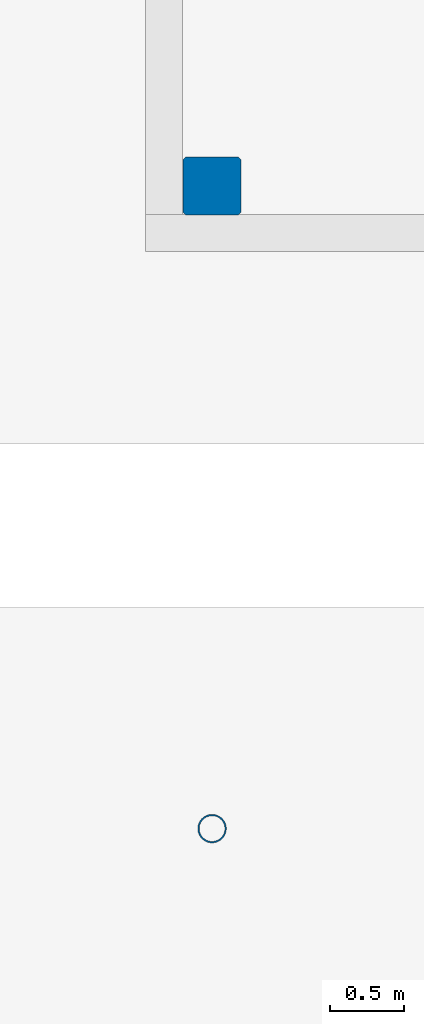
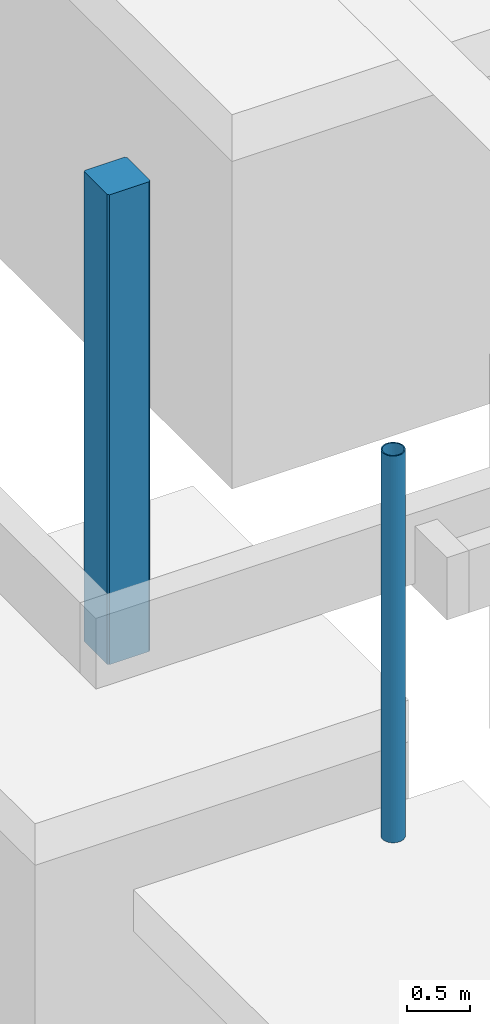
# One storey, part 2 of 12: 2 columns.
"""IFC4X3_ADD2 building model written with IfcOpenShell, lengths in millimetres."""

import ifcopenshell
import ifcopenshell.guid

model = None  # the IFC model being written
_history = None  # IfcOwnerHistory: only IFC2X3 demands one
_inside = {}  # id of a spatial element -> (the spatial element, [elements in it])
_under = {}  # id of a project, library or spatial element -> (it, [spatial elements below it])
_declared = {}  # id of a project -> (the project, [libraries it declares])
_typed = {}  # id of a type object -> (the type object, [elements of that type])
_made_of = {}  # id of a material, layer set ... -> (it, [elements and type objects made of it])


def new_model(schema):
    """Start an empty IFC model of exactly this schema.

    Asked for "IFC4X3", IfcOpenShell would pick the latest addendum, in which some entities
    have other attributes; the version numbers below select the first issue.
    IFC2X3 requires an IfcOwnerHistory on every rooted entity: one is made here for all.
    """
    global model, _history
    if schema == "IFC4X3":
        model = ifcopenshell.file(schema_version=(4, 3, 0, 0))
    else:
        model = ifcopenshell.file(schema=schema)
    _inside.clear()
    _under.clear()
    _declared.clear()
    _typed.clear()
    _made_of.clear()
    _history = None
    if model.schema == "IFC2X3":
        org = make("IfcOrganization", Name="unknown")
        user = make(
            "IfcPersonAndOrganization",
            ThePerson=make("IfcPerson", FamilyName="unknown"),
            TheOrganization=org,
        )
        app = make(
            "IfcApplication",
            ApplicationDeveloper=org,
            Version="unknown",
            ApplicationFullName="unknown",
            ApplicationIdentifier="unknown",
        )
        _history = make(
            "IfcOwnerHistory",
            OwningUser=user,
            OwningApplication=app,
            ChangeAction="ADDED",
            CreationDate=0,
        )
    return model


def make(cls, **values):
    """One entity of the class cls with the attributes given. An attribute that is None is left unset."""
    return model.create_entity(
        cls, **{name: value for name, value in values.items() if value is not None}
    )


def rooted(cls, **values):
    """An entity with a GlobalId (a new one), such as an element, a storey or a relation."""
    return make(cls, GlobalId=ifcopenshell.guid.new(), OwnerHistory=_history, **values)


def si_unit(unit_type, name, prefix=None):
    """IfcSIUnit, for example si_unit("LENGTHUNIT", "METRE", prefix="MILLI")."""
    return make("IfcSIUnit", UnitType=unit_type, Prefix=prefix, Name=name)


def assignment(units):
    """IfcUnitAssignment: the units of a project."""
    return None if units is None else make("IfcUnitAssignment", Units=units)


def point(xyz):
    """IfcCartesianPoint."""
    return None if xyz is None else make("IfcCartesianPoint", Coordinates=xyz)


def direction(xyz):
    """IfcDirection."""
    return None if xyz is None else make("IfcDirection", DirectionRatios=xyz)


def frame(location, z_axis=None, x_axis=None):
    """IfcAxis2Placement3D, a coordinate frame: its origin and axes. An axis left out is left unset."""
    return make(
        "IfcAxis2Placement3D",
        Location=point(location),
        Axis=direction(z_axis),
        RefDirection=direction(x_axis),
    )


def frame_2d(location, x_axis=None):
    """IfcAxis2Placement2D, a coordinate frame in the plane: its origin and x axis."""
    return make(
        "IfcAxis2Placement2D", Location=point(location), RefDirection=direction(x_axis)
    )


def origin_with_axes():
    """The frame at (0, 0, 0) with the z axis (0, 0, 1) and the x axis (1, 0, 0) written out."""
    return frame((0.0, 0.0, 0.0), z_axis=(0.0, 0.0, 1.0), x_axis=(1.0, 0.0, 0.0))


def place(relative_to, where):
    """IfcLocalPlacement: puts the frame where relative to a parent placement (None: the world)."""
    return make(
        "IfcLocalPlacement", PlacementRelTo=relative_to, RelativePlacement=where
    )


def context(
    kind, dimensions, precision=None, world=None, true_north=None, identifier=None
):
    """IfcGeometricRepresentationContext, for example the 3D "Model" context."""
    return make(
        "IfcGeometricRepresentationContext",
        ContextIdentifier=identifier,
        ContextType=kind,
        CoordinateSpaceDimension=dimensions,
        Precision=precision,
        WorldCoordinateSystem=world,
        TrueNorth=true_north,
    )


def subcontext(parent, identifier, kind, view, scale=None):
    """IfcGeometricRepresentationSubContext, for example "Body" below "Model"."""
    return make(
        "IfcGeometricRepresentationSubContext",
        ContextIdentifier=identifier,
        ContextType=kind,
        ParentContext=parent,
        TargetScale=scale,
        TargetView=view,
    )


def project(units=None, contexts=None):
    """IfcProject with its units and contexts."""
    return rooted(
        "IfcProject",
        Name="project",
        RepresentationContexts=contexts,
        UnitsInContext=assignment(units),
    )


def spatial(cls, under=None, at=None, **own):
    """A site, building, storey or space (cls), placed at a placement, below another one or the project."""
    s = rooted(cls, ObjectPlacement=at, **own)
    if under is not None:
        _under.setdefault(under.id(), (under, []))[1].append(s)
    return s


def polyline(points):
    """IfcPolyline through the points."""
    return make("IfcPolyline", Points=[point(p) for p in points])


def profile(cls, at=None, kind="AREA", **sizes):
    """A parametric profile (cls). Its sizes go by their IFC names, for example OverallWidth=200.0."""
    return make(cls, ProfileType=kind, Position=at, **sizes)


def hollow_circle(**sizes):
    """IfcCircleHollowProfileDef."""
    return profile("IfcCircleHollowProfileDef", **sizes)


def outline(outer, holes=None, kind="AREA"):
    """IfcArbitraryClosedProfileDef: a profile drawn as a closed curve; with holes, ...WithVoids."""
    if holes is None:
        return make("IfcArbitraryClosedProfileDef", ProfileType=kind, OuterCurve=outer)
    return make(
        "IfcArbitraryProfileDefWithVoids",
        ProfileType=kind,
        OuterCurve=outer,
        InnerCurves=holes,
    )


def extrude(swept, where, along, depth):
    """IfcExtrudedAreaSolid: the profile swept, set in the frame where, extruded along a direction by depth."""
    return make(
        "IfcExtrudedAreaSolid",
        SweptArea=swept,
        Position=where,
        ExtrudedDirection=direction(along),
        Depth=depth,
    )


def shape(context_of_items, identifier, shape_type, items):
    """IfcShapeRepresentation: the items that make up one representation, for example the "Body"."""
    return make(
        "IfcShapeRepresentation",
        ContextOfItems=context_of_items,
        RepresentationIdentifier=identifier,
        RepresentationType=shape_type,
        Items=items,
    )


def source(mapping_origin, context_of_items, identifier, shape_type, items):
    """IfcRepresentationMap: a shape defined once, which mapped items show again and again."""
    return make(
        "IfcRepresentationMap",
        MappingOrigin=mapping_origin,
        MappedRepresentation=shape(context_of_items, identifier, shape_type, items),
    )


def transform(
    local_origin,
    x_axis=None,
    y_axis=None,
    z_axis=None,
    scale=None,
    scale2=None,
    scale3=None,
    uniform=True,
):
    """IfcCartesianTransformationOperator3D, or its non-uniform kind. x_axis, y_axis, z_axis: its Axis1, 2, 3."""
    if uniform:
        return make(
            "IfcCartesianTransformationOperator3D",
            Axis1=direction(x_axis),
            Axis2=direction(y_axis),
            LocalOrigin=point(local_origin),
            Scale=scale,
            Axis3=direction(z_axis),
        )
    return make(
        "IfcCartesianTransformationOperator3DnonUniform",
        Axis1=direction(x_axis),
        Axis2=direction(y_axis),
        LocalOrigin=point(local_origin),
        Scale=scale,
        Axis3=direction(z_axis),
        Scale2=scale2,
        Scale3=scale3,
    )


def mapped(mapping_source, mapping_target):
    """IfcMappedItem: shows the shape of a source again, moved by a transform."""
    return make(
        "IfcMappedItem", MappingSource=mapping_source, MappingTarget=mapping_target
    )


def material(Name=None, Category=None):
    """IfcMaterial."""
    return make("IfcMaterial", Name=Name, Category=Category)


def made_of(thing, what):
    """Note that an element or type object is made of a material, layer set ...; save() writes the relation."""
    if what is not None:
        _made_of.setdefault(what.id(), (what, []))[1].append(thing)
    return thing


def type_object(cls, material=None, **own):
    """A type object (cls), such as IfcWallType, which elements share."""
    return made_of(rooted(cls, **own), material)


def type_shapes(of_type, sources):
    """Give a type object the sources (RepresentationMaps) that its elements show as mapped items."""
    of_type.RepresentationMaps = sources


def element(
    cls,
    number,
    at=None,
    inside=None,
    cuts=None,
    type_object=None,
    material=None,
    context=None,
    identifier="Body",
    shape_type=None,
    held_by="IfcProductDefinitionShape",
    body=None,
    shapes=None,
    **own,
):
    """One element of the class cls, such as IfcWall. Its Tag is "e" and its number.

    at: its placement. inside: the storey or other place that contains it. cuts: it is an
    opening in that element (IfcRelVoidsElement). A single representation is given by context,
    identifier, shape_type and body (its items); several are given by shapes. held_by: the class
    of the entity that holds the representations. save() writes the other relations.
    """
    e = rooted(cls, Tag="e%d" % number, ObjectPlacement=at, **own)
    if body is not None:
        shapes = [shape(context, identifier, shape_type, body)]
    if shapes is not None:
        e.Representation = make(held_by, Representations=shapes)
    if inside is not None:
        _inside.setdefault(inside.id(), (inside, []))[1].append(e)
    if cuts is not None:
        rooted(
            "IfcRelVoidsElement", RelatingBuildingElement=cuts, RelatedOpeningElement=e
        )
    if type_object is not None:
        _typed.setdefault(type_object.id(), (type_object, []))[1].append(e)
    return made_of(e, material)


def aggregate(whole, parts):
    """IfcRelAggregates: a whole, such as a stair, and the parts it consists of."""
    return rooted("IfcRelAggregates", RelatingObject=whole, RelatedObjects=parts)


def save(model, path):
    """Write the relations noted so far, then the file.

    IfcRelAggregates (storeys below a building ...), IfcRelContainedInSpatialStructure (elements
    in a storey), IfcRelDefinesByType, IfcRelAssociatesMaterial and IfcRelDeclares: one each for
    every whole, place, type object, material and project.
    """
    for whole, parts in _under.values():
        aggregate(whole, parts)
    for where, things in _inside.values():
        rooted(
            "IfcRelContainedInSpatialStructure",
            RelatedElements=things,
            RelatingStructure=where,
        )
    for kind, things in _typed.values():
        rooted("IfcRelDefinesByType", RelatedObjects=things, RelatingType=kind)
    for what, things in _made_of.values():
        rooted("IfcRelAssociatesMaterial", RelatedObjects=things, RelatingMaterial=what)
    for by, libraries in _declared.values():
        rooted("IfcRelDeclares", RelatingContext=by, RelatedDefinitions=libraries)
    model.write(path)


model = new_model("IFC4X3_ADD2")

# Units and contexts
model_context = context("Model", 3, precision=1e-05, world=origin_with_axes(), true_north=direction((0.0, 1.0)))
body_context = subcontext(model_context, "Body", "Model", "MODEL_VIEW")
ifc_project = project(units=[si_unit("LENGTHUNIT", "METRE", prefix="MILLI"), si_unit("AREAUNIT", "SQUARE_METRE"), si_unit("VOLUMEUNIT", "CUBIC_METRE"), si_unit("PLANEANGLEUNIT", "RADIAN"), si_unit("TIMEUNIT", "SECOND"), si_unit("MASSUNIT", "GRAM")], contexts=[model_context])

# Site, building, storey
site_placement = place(None, origin_with_axes())
site = spatial("IfcSite", under=ifc_project, at=site_placement, Name="Site", CompositionType="ELEMENT")
building_placement = place(site_placement, origin_with_axes())
building = spatial("IfcBuilding", under=site, at=building_placement, Name="IFC Building Story")
storey_placement = place(building_placement, frame((0.0, 0.0, -800.0), z_axis=(0.0, 0.0, 1.0), x_axis=(1.0, 0.0, 0.0)))
storey = spatial("IfcBuildingStorey", under=building, at=storey_placement, Name="FOND 00 (0)", Elevation=-800.0)

# Columns
ifc_material = material(Name="BS_28_Métal")
column_type = type_object("IfcColumnType", Name="BS_28_SCO_LE_Poteau RO (EN 10219-2)_CHS 193.7x10", PredefinedType="NOTDEFINED")
shared_shape = source(origin_with_axes(), body_context, "Body", "SweptSolid", [
    extrude(hollow_circle(Radius=96.8499999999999, WallThickness=9.99999999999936, at=frame_2d((0.0, 5.95523630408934e-12), x_axis=(0.0, 1.0))), frame((33401.6894781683, -12385.0000000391, 50.0), z_axis=(0.0, 0.0, 1.0), x_axis=(1.0, 0.0, 0.0)), (0.0, 0.0, 1.0), 3720.0),
])
type_shapes(column_type, [shared_shape])
column_1_placement = place(storey_placement, frame((0.0, 0.0, 800.0), z_axis=(0.0, 0.0, 1.0), x_axis=(1.0, 0.0, 0.0)))
element("IfcColumn", 1, at=column_1_placement, inside=storey, type_object=column_type, material=ifc_material, Name="BS_28_SCO_LE_Poteau RO (EN 10219-2):CHS 193.7x10", ObjectType="CHS 193.7x10", context=body_context, shape_type="MappedRepresentation", body=[
    mapped(shared_shape, transform((0.0, 0.0, 0.0))),
])
column_2_placement = place(storey_placement, frame((33206.189, -7840.0, 40.0), z_axis=(0.0, 0.0, 1.0), x_axis=(0.0, -1.0, 0.0)))
element("IfcColumn", 2, at=column_2_placement, inside=storey, Name="COLUMN", ObjectType="EB_CR_390*390*15", context=body_context, shape_type="SweptSolid", body=[
    extrude(outline(polyline([(195.0, 179.9999999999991), (195.0, -180.0), (179.9999999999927, -195.0), (-180.0, -195.0), (-195.0000000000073, -179.9999999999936), (-195.0, 179.9999999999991), (-180.0, 194.9999999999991), (179.9999999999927, 194.9999999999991), (195.0, 179.9999999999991)])), frame((195.0000000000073, 195.0, 0.0), z_axis=(0.0, 0.0, 1.0), x_axis=(1.0, 0.0, 0.0)), (0.0, 0.0, 1.0), 4520.0),
])

save(model, "model.ifc")
